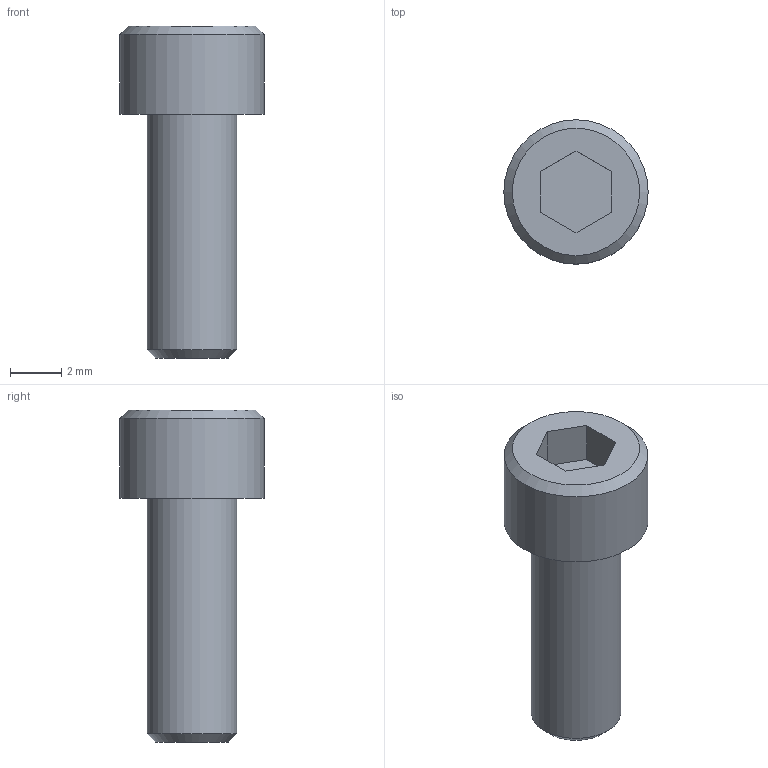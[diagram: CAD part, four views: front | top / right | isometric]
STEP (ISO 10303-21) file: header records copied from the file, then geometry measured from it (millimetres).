
FILE_DESCRIPTION((''),'2;1');
FILE_NAME('C:\Users\Stan\Desktop\import\SHCS 6-32 UNCx0.375.ipt.step','2011-08-18T17:44:40',(''),(''),'Autodesk Inventor 2012','Autodesk Inventor 2012','');
FILE_SCHEMA(('AUTOMOTIVE_DESIGN { 1 0 10303 214 1 1 1 1 }'));
Length unit declared in the file: inch
Products named in the file (1): SHCS 6-32 UNCx0.375
Bounding box: 5.64 x 5.64 x 12.98 mm (x, y, z)
Volume: 165.9 mm3; surface area: 225.8 mm2
Topology: 1 solids, 1 shells, 14 faces, 28 edges, 18 vertices
Faces by surface type: plane 10, cone 2, cylinder 2
Full cylindrical faces by diameter (mm): 3.505 x1, 5.639 x1
Entity records: 391 total; most frequent: DIRECTION 60, CARTESIAN_POINT 57, ORIENTED_EDGE 48, EDGE_CURVE 24, AXIS2_PLACEMENT_3D 21, EDGE_LOOP 20, VERTEX_POINT 18, VECTOR 18
